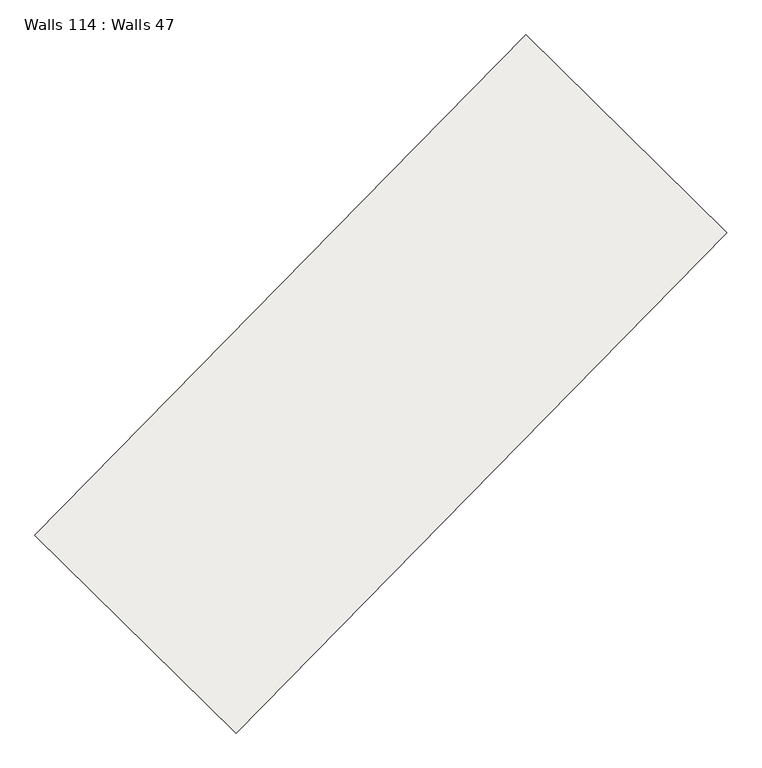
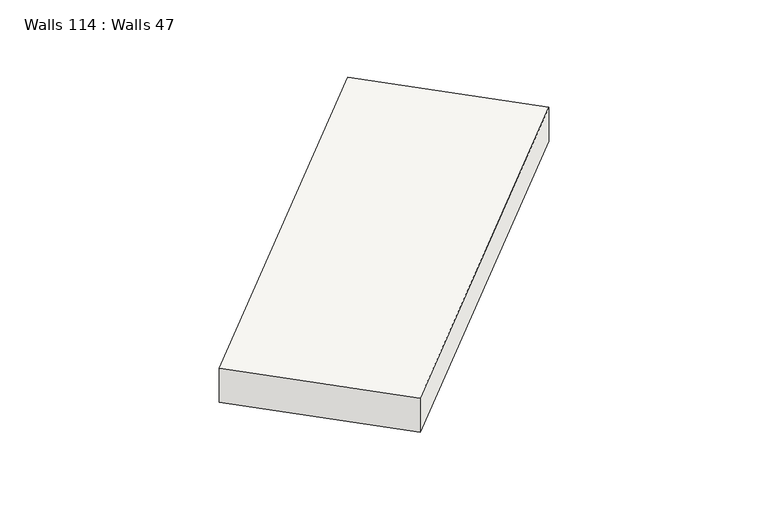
"""IFC4 building model written with IfcOpenShell, lengths in millimetres: slab geometry, Walls 114 : Walls 47."""

from ifc_helpers import new_model, si_unit, frame, origin, place, context, project, spatial, polyline, outline, extrude, source, transform, mapped, element, save


def walls_114_walls_47_1471e542(model_context):
    return source(origin(), model_context, "Body", "SweptSolid", [
        extrude(outline(polyline([(-350.0, 0.0), (350.0, 0.0), (260.0, -8699.9999994), (-440.0, -8699.9999994), (-350.0, 0.0)])), frame((-97519.2864147, -258576.1819903, 637030.0), z_axis=(-0.7137361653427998, 0.7004146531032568, 0.0), x_axis=(0.0, 0.0, 1.0)), (0.0, 0.0, 1.0), 3499.999995),
    ])


if __name__ == "__main__":
    model = new_model("IFC4")
    model_context = context("Model", 3, world=origin())
    ifc_project = project(units=[si_unit("LENGTHUNIT", "METRE", prefix="MILLI")], contexts=[model_context])
    site = spatial("IfcSite", under=ifc_project)
    building = spatial("IfcBuilding", under=site)
    placement = place(None, origin())
    walls_114_walls_47_shape = walls_114_walls_47_1471e542(model_context)
    element("IfcSlab", 1, ObjectType="Walls 114 : Walls 47", at=placement, inside=building, context=model_context, shape_type="MappedRepresentation", body=[
        mapped(walls_114_walls_47_shape, transform((0.0, 0.0, 0.0), x_axis=(1.0, 0.0, 0.0), y_axis=(0.0, 1.0, 0.0), z_axis=(0.0, 0.0, 1.0))),
    ])
    save(model, "model.ifc")
